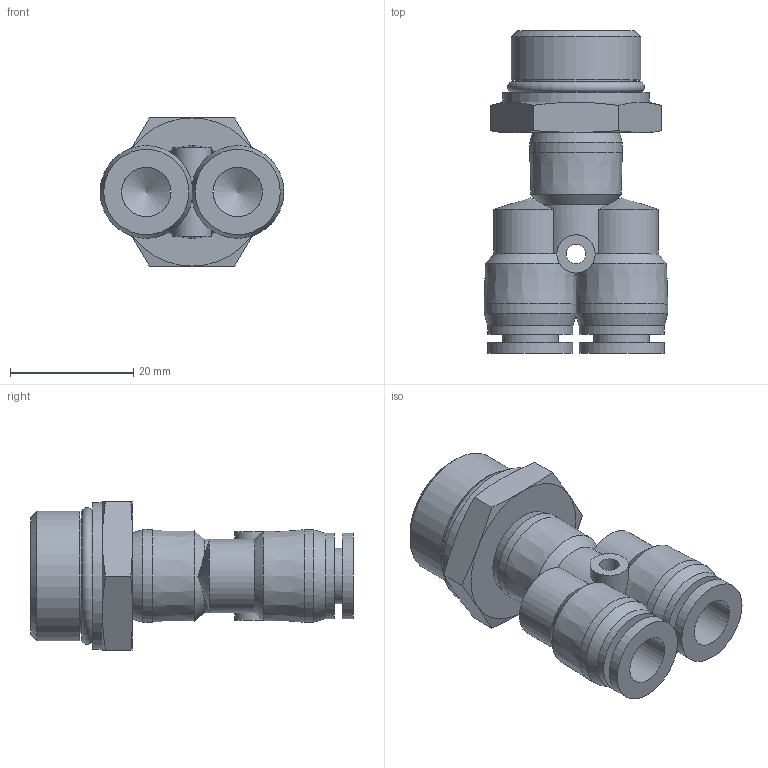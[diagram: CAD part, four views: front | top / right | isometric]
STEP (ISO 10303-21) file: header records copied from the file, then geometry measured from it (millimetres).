
FILE_DESCRIPTION(/* description */ (''),/* implementation_level */ '2;1');
FILE_NAME(/* name */ 'S:\_Tecnico\ArchivioUT\_Disegni3D ingombri\DISEGNI 3D per ingombri\RP\RP 74\RP741208.stp',/* time_stamp */ '2019-09-06T10:28:02+02:00',/* author */ ('ufficiotecnico3'),/* organization */ (''),/* preprocessor_version */ 'ST-DEVELOPER v18',/* originating_system */ 'Autodesk Inventor 2020',/* authorisation */ '');
FILE_SCHEMA (('AUTOMOTIVE_DESIGN { 1 0 10303 214 3 1 1 }'));
Length unit declared in the file: millimetre
Products named in the file (1): RP741208
Bounding box: 29.75 x 52.3 x 24 mm (x, y, z)
Volume: 9824.5 mm3; surface area: 8059.3 mm2
Topology: 1 solids, 1 shells, 74 faces, 207 edges, 138 vertices
Faces by surface type: plane 26, cylinder 25, cone 22, torus 1
Full cylindrical faces by diameter (mm): 3.2 x1, 6.2 x1, 7 x1, 8 x2, 9 x3, 13.8 x4, 15 x1, 15.4 x1, 18.4 x1, 20.955 x1, 23.8 x1
Entity records: 2749 total; most frequent: CARTESIAN_POINT 812, ORIENTED_EDGE 406, DIRECTION 398, EDGE_CURVE 203, AXIS2_PLACEMENT_3D 172, VERTEX_POINT 138, CIRCLE 97, EDGE_LOOP 89
